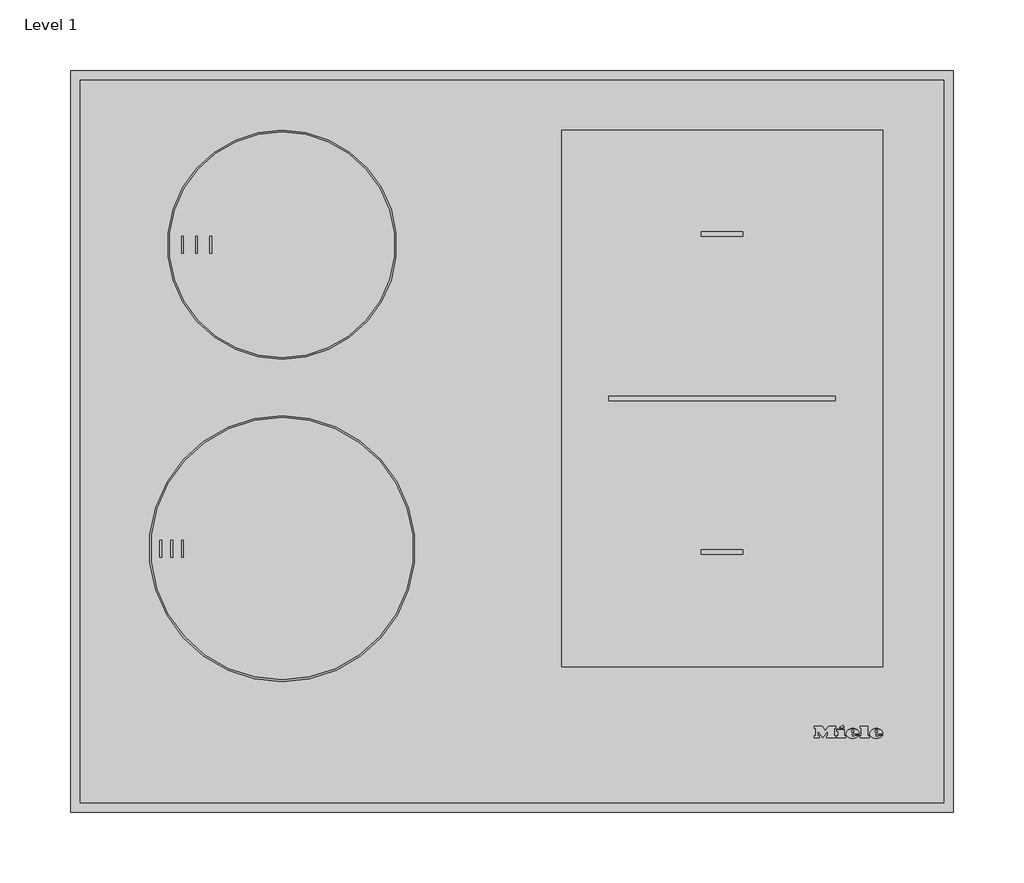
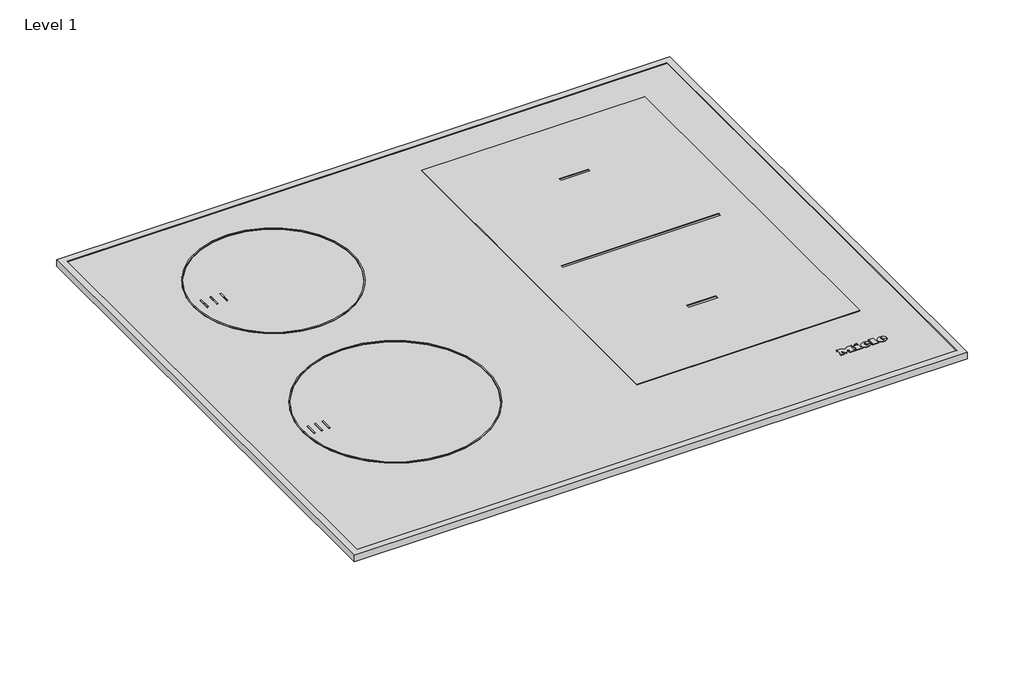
# One storey: 1 proxy.
"""IFC4 building model written with IfcOpenShell, lengths in millimetres."""

import ifcopenshell
import ifcopenshell.guid

model = None  # the IFC model being written
_history = None  # IfcOwnerHistory: only IFC2X3 demands one
_inside = {}  # id of a spatial element -> (the spatial element, [elements in it])
_under = {}  # id of a project, library or spatial element -> (it, [spatial elements below it])
_declared = {}  # id of a project -> (the project, [libraries it declares])
_typed = {}  # id of a type object -> (the type object, [elements of that type])
_made_of = {}  # id of a material, layer set ... -> (it, [elements and type objects made of it])


def new_model(schema):
    """Start an empty IFC model of exactly this schema.

    Asked for "IFC4X3", IfcOpenShell would pick the latest addendum, in which some entities
    have other attributes; the version numbers below select the first issue.
    IFC2X3 requires an IfcOwnerHistory on every rooted entity: one is made here for all.
    """
    global model, _history
    if schema == "IFC4X3":
        model = ifcopenshell.file(schema_version=(4, 3, 0, 0))
    else:
        model = ifcopenshell.file(schema=schema)
    _inside.clear()
    _under.clear()
    _declared.clear()
    _typed.clear()
    _made_of.clear()
    _history = None
    if model.schema == "IFC2X3":
        org = make("IfcOrganization", Name="unknown")
        user = make(
            "IfcPersonAndOrganization",
            ThePerson=make("IfcPerson", FamilyName="unknown"),
            TheOrganization=org,
        )
        app = make(
            "IfcApplication",
            ApplicationDeveloper=org,
            Version="unknown",
            ApplicationFullName="unknown",
            ApplicationIdentifier="unknown",
        )
        _history = make(
            "IfcOwnerHistory",
            OwningUser=user,
            OwningApplication=app,
            ChangeAction="ADDED",
            CreationDate=0,
        )
    return model


def make(cls, **values):
    """One entity of the class cls with the attributes given. An attribute that is None is left unset."""
    return model.create_entity(
        cls, **{name: value for name, value in values.items() if value is not None}
    )


def rooted(cls, **values):
    """An entity with a GlobalId (a new one), such as an element, a storey or a relation."""
    return make(cls, GlobalId=ifcopenshell.guid.new(), OwnerHistory=_history, **values)


def si_unit(unit_type, name, prefix=None):
    """IfcSIUnit, for example si_unit("LENGTHUNIT", "METRE", prefix="MILLI")."""
    return make("IfcSIUnit", UnitType=unit_type, Prefix=prefix, Name=name)


def assignment(units):
    """IfcUnitAssignment: the units of a project."""
    return None if units is None else make("IfcUnitAssignment", Units=units)


def point(xyz):
    """IfcCartesianPoint."""
    return None if xyz is None else make("IfcCartesianPoint", Coordinates=xyz)


def direction(xyz):
    """IfcDirection."""
    return None if xyz is None else make("IfcDirection", DirectionRatios=xyz)


def frame(location, z_axis=None, x_axis=None):
    """IfcAxis2Placement3D, a coordinate frame: its origin and axes. An axis left out is left unset."""
    return make(
        "IfcAxis2Placement3D",
        Location=point(location),
        Axis=direction(z_axis),
        RefDirection=direction(x_axis),
    )


def frame_2d(location, x_axis=None):
    """IfcAxis2Placement2D, a coordinate frame in the plane: its origin and x axis."""
    return make(
        "IfcAxis2Placement2D", Location=point(location), RefDirection=direction(x_axis)
    )


def origin():
    """The frame at (0, 0, 0) with its axes left unset."""
    return frame((0.0, 0.0, 0.0))


def place(relative_to, where):
    """IfcLocalPlacement: puts the frame where relative to a parent placement (None: the world)."""
    return make(
        "IfcLocalPlacement", PlacementRelTo=relative_to, RelativePlacement=where
    )


def context(
    kind, dimensions, precision=None, world=None, true_north=None, identifier=None
):
    """IfcGeometricRepresentationContext, for example the 3D "Model" context."""
    return make(
        "IfcGeometricRepresentationContext",
        ContextIdentifier=identifier,
        ContextType=kind,
        CoordinateSpaceDimension=dimensions,
        Precision=precision,
        WorldCoordinateSystem=world,
        TrueNorth=true_north,
    )


def project(units=None, contexts=None):
    """IfcProject with its units and contexts."""
    return rooted(
        "IfcProject",
        Name="project",
        RepresentationContexts=contexts,
        UnitsInContext=assignment(units),
    )


def spatial(cls, under=None, at=None, **own):
    """A site, building, storey or space (cls), placed at a placement, below another one or the project."""
    s = rooted(cls, ObjectPlacement=at, **own)
    if under is not None:
        _under.setdefault(under.id(), (under, []))[1].append(s)
    return s


def polyline(points):
    """IfcPolyline through the points."""
    return make("IfcPolyline", Points=[point(p) for p in points])


def circle_curve(where, radius):
    """IfcCircle in the frame where."""
    return make("IfcCircle", Position=where, Radius=radius)


def ellipse_curve(where, semi_axis1, semi_axis2):
    """IfcEllipse in the frame where."""
    return make(
        "IfcEllipse", Position=where, SemiAxis1=semi_axis1, SemiAxis2=semi_axis2
    )


def trimmed(basis, trim1, trim2, sense, master):
    """IfcTrimmedCurve: the piece of a basis curve between two trims."""
    return make(
        "IfcTrimmedCurve",
        BasisCurve=basis,
        Trim1=trim1,
        Trim2=trim2,
        SenseAgreement=sense,
        MasterRepresentation=master,
    )


def segment(curve, same_sense, transition):
    """IfcCompositeCurveSegment."""
    return make(
        "IfcCompositeCurveSegment",
        Transition=transition,
        SameSense=same_sense,
        ParentCurve=curve,
    )


def composite_curve(segments, self_intersect=None):
    """IfcCompositeCurve: segments joined end to end."""
    return make("IfcCompositeCurve", Segments=segments, SelfIntersect=self_intersect)


def outline(outer, holes=None, kind="AREA"):
    """IfcArbitraryClosedProfileDef: a profile drawn as a closed curve; with holes, ...WithVoids."""
    if holes is None:
        return make("IfcArbitraryClosedProfileDef", ProfileType=kind, OuterCurve=outer)
    return make(
        "IfcArbitraryProfileDefWithVoids",
        ProfileType=kind,
        OuterCurve=outer,
        InnerCurves=holes,
    )


def extrude(swept, where, along, depth):
    """IfcExtrudedAreaSolid: the profile swept, set in the frame where, extruded along a direction by depth."""
    return make(
        "IfcExtrudedAreaSolid",
        SweptArea=swept,
        Position=where,
        ExtrudedDirection=direction(along),
        Depth=depth,
    )


def faces_of(points, faces, orient=None, outer=None):
    """IfcFace entities. A face is a list of loops; a loop is a list of indices into points, from 0.

    orient and outer hold one flag for each loop. By default every Orientation is true, the
    first loop of a face is its IfcFaceOuterBound and the others are IfcFaceBound.
    """
    made = []
    for i, loops in enumerate(faces):
        bounds = []
        for j, loop in enumerate(loops):
            is_outer = j == 0 if outer is None else outer[i][j]
            bounds.append(
                make(
                    "IfcFaceOuterBound" if is_outer else "IfcFaceBound",
                    Bound=make("IfcPolyLoop", Polygon=[points[k] for k in loop]),
                    Orientation=True if orient is None else orient[i][j],
                )
            )
        made.append(make("IfcFace", Bounds=bounds))
    return made


def faceted_brep(points, faces, orient=None, outer=None, voids=None):
    """IfcFacetedBrep: a solid bounded by flat faces; with voids (closed shells), ...WithVoids."""
    shared = [point(p) for p in points]
    hull = make("IfcClosedShell", CfsFaces=faces_of(shared, faces, orient, outer))
    if voids is None:
        return make("IfcFacetedBrep", Outer=hull)
    return make(
        "IfcFacetedBrepWithVoids",
        Outer=hull,
        Voids=[
            make(cls, CfsFaces=faces_of(shared, fs, o, b)) for cls, fs, o, b in voids
        ],
    )


def shape(context_of_items, identifier, shape_type, items):
    """IfcShapeRepresentation: the items that make up one representation, for example the "Body"."""
    return make(
        "IfcShapeRepresentation",
        ContextOfItems=context_of_items,
        RepresentationIdentifier=identifier,
        RepresentationType=shape_type,
        Items=items,
    )


def source(mapping_origin, context_of_items, identifier, shape_type, items):
    """IfcRepresentationMap: a shape defined once, which mapped items show again and again."""
    return make(
        "IfcRepresentationMap",
        MappingOrigin=mapping_origin,
        MappedRepresentation=shape(context_of_items, identifier, shape_type, items),
    )


def transform(
    local_origin,
    x_axis=None,
    y_axis=None,
    z_axis=None,
    scale=None,
    scale2=None,
    scale3=None,
    uniform=True,
):
    """IfcCartesianTransformationOperator3D, or its non-uniform kind. x_axis, y_axis, z_axis: its Axis1, 2, 3."""
    if uniform:
        return make(
            "IfcCartesianTransformationOperator3D",
            Axis1=direction(x_axis),
            Axis2=direction(y_axis),
            LocalOrigin=point(local_origin),
            Scale=scale,
            Axis3=direction(z_axis),
        )
    return make(
        "IfcCartesianTransformationOperator3DnonUniform",
        Axis1=direction(x_axis),
        Axis2=direction(y_axis),
        LocalOrigin=point(local_origin),
        Scale=scale,
        Axis3=direction(z_axis),
        Scale2=scale2,
        Scale3=scale3,
    )


def mapped(mapping_source, mapping_target):
    """IfcMappedItem: shows the shape of a source again, moved by a transform."""
    return make(
        "IfcMappedItem", MappingSource=mapping_source, MappingTarget=mapping_target
    )


def made_of(thing, what):
    """Note that an element or type object is made of a material, layer set ...; save() writes the relation."""
    if what is not None:
        _made_of.setdefault(what.id(), (what, []))[1].append(thing)
    return thing


def element(
    cls,
    number,
    at=None,
    inside=None,
    cuts=None,
    type_object=None,
    material=None,
    context=None,
    identifier="Body",
    shape_type=None,
    held_by="IfcProductDefinitionShape",
    body=None,
    shapes=None,
    **own,
):
    """One element of the class cls, such as IfcWall. Its Tag is "e" and its number.

    at: its placement. inside: the storey or other place that contains it. cuts: it is an
    opening in that element (IfcRelVoidsElement). A single representation is given by context,
    identifier, shape_type and body (its items); several are given by shapes. held_by: the class
    of the entity that holds the representations. save() writes the other relations.
    """
    e = rooted(cls, Tag="e%d" % number, ObjectPlacement=at, **own)
    if body is not None:
        shapes = [shape(context, identifier, shape_type, body)]
    if shapes is not None:
        e.Representation = make(held_by, Representations=shapes)
    if inside is not None:
        _inside.setdefault(inside.id(), (inside, []))[1].append(e)
    if cuts is not None:
        rooted(
            "IfcRelVoidsElement", RelatingBuildingElement=cuts, RelatedOpeningElement=e
        )
    if type_object is not None:
        _typed.setdefault(type_object.id(), (type_object, []))[1].append(e)
    return made_of(e, material)


def aggregate(whole, parts):
    """IfcRelAggregates: a whole, such as a stair, and the parts it consists of."""
    return rooted("IfcRelAggregates", RelatingObject=whole, RelatedObjects=parts)


def save(model, path):
    """Write the relations noted so far, then the file.

    IfcRelAggregates (storeys below a building ...), IfcRelContainedInSpatialStructure (elements
    in a storey), IfcRelDefinesByType, IfcRelAssociatesMaterial and IfcRelDeclares: one each for
    every whole, place, type object, material and project.
    """
    for whole, parts in _under.values():
        aggregate(whole, parts)
    for where, things in _inside.values():
        rooted(
            "IfcRelContainedInSpatialStructure",
            RelatedElements=things,
            RelatingStructure=where,
        )
    for kind, things in _typed.values():
        rooted("IfcRelDefinesByType", RelatedObjects=things, RelatingType=kind)
    for what, things in _made_of.values():
        rooted("IfcRelAssociatesMaterial", RelatedObjects=things, RelatingMaterial=what)
    for by, libraries in _declared.values():
        rooted("IfcRelDeclares", RelatingContext=by, RelatedDefinitions=libraries)
    model.write(path)


def plane_surface(at):
    """IfcPlane: the flat surface through the origin of the frame at, square to its z axis."""
    return make("IfcPlane", Position=at)


def cylinder_surface(at, radius):
    """IfcCylindricalSurface: all points at the distance radius from the z axis of the frame at."""
    return make("IfcCylindricalSurface", Position=at, Radius=radius)


def revolved_surface(curve, axis_point, axis_direction):
    """IfcSurfaceOfRevolution: the curve turned about the line through axis_point along axis_direction."""
    return make(
        "IfcSurfaceOfRevolution",
        SweptCurve=make("IfcArbitraryOpenProfileDef", ProfileType="CURVE", Curve=curve),
        AxisPosition=make("IfcAxis1Placement", Location=point(axis_point), Axis=direction(axis_direction)),
    )


def extruded_surface(curve, direction_of_extrusion, depth):
    """IfcSurfaceOfLinearExtrusion: the curve pushed along a direction by depth."""
    return make(
        "IfcSurfaceOfLinearExtrusion",
        SweptCurve=make("IfcArbitraryOpenProfileDef", ProfileType="CURVE", Curve=curve),
        ExtrudedDirection=direction(direction_of_extrusion),
        Depth=depth,
    )


def advanced_brep(points, edges, surfaces, faces):
    """IfcAdvancedBrep: a solid bounded by faces that lie on surfaces and meet in shared edges.

    An edge is (start, end): straight between two places in points (the first is 0);
    or (start, end, curve); or (start, end, curve, False) where it runs against its curve.
    A face is (place in surfaces, loops), or (place, loops, False) where it looks against
    its surface's normal. A loop lists edges by number (the first is 1), with a minus sign
    where the edge is run from its end to its start. The first loop is the outer one.
    """
    corners = [point(p) for p in points]
    vertices = [make("IfcVertexPoint", VertexGeometry=c) for c in corners]
    made = []
    for start, end, *more in edges:
        made.append(
            make(
                "IfcEdgeCurve",
                EdgeStart=vertices[start],
                EdgeEnd=vertices[end],
                EdgeGeometry=more[0] if more else make("IfcPolyline", Points=[corners[start], corners[end]]),
                SameSense=more[1] if len(more) > 1 else True,
            )
        )
    hull = []
    for where, loops, *sense in faces:
        bounds = []
        for j, loop in enumerate(loops):
            ring = [make("IfcOrientedEdge", EdgeElement=made[abs(k) - 1], Orientation=k > 0) for k in loop]
            bounds.append(
                make(
                    "IfcFaceOuterBound" if j == 0 else "IfcFaceBound",
                    Bound=make("IfcEdgeLoop", EdgeList=ring),
                    Orientation=True,
                )
            )
        hull.append(make("IfcAdvancedFace", Bounds=bounds, FaceSurface=surfaces[where], SameSense=sense[0] if sense else True))
    return make("IfcAdvancedBrep", Outer=make("IfcClosedShell", CfsFaces=hull))


def specialty_equipment_9e8c9460(model_context):
    return source(origin(), model_context, "Body", "SolidModel", [
        advanced_brep(
        [(257.66, 54.8948833, 6.4802537), (257.66, 55.7028828, 6.4811551), (263.012, 55.7028828, 6.4811551), (253.7, 55.7028828, 6.4811551), (255.9, 52.9988845, 6.4781386), (262.876, 54.8948833, 6.4802537), (260.46, 54.8948833, 6.4802537), (258.556, 53.9988838, 6.4792542), (257.66, 56.7268821, 6.4822974), (257.66, 57.5988816, 6.4832701), (259.028, 57.5988816, 6.4832701), (259.028, 56.7268821, 6.4822974), (257.66, 54.8959988, 5.4802543), (258.556, 53.9999994, 5.4792548), (260.46, 54.8959988, 5.4802543), (262.876, 54.8959988, 5.4802543), (255.9, 53.0, 5.4781393), (253.7, 55.7039983, 5.4811557), (263.012, 55.7039983, 5.4811557), (257.66, 55.7039983, 5.4811557), (257.66, 56.7279977, 5.482298), (259.028, 56.7279977, 5.482298), (259.028, 57.5999971, 5.4832707), (257.66, 57.5999971, 5.4832707)],
        [
            (0, 1),
            (1, 2),
            (2, 3, ellipse_curve(frame((258.356, 55.7028828, 6.4811551), z_axis=(0.0, -0.0011155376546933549, 0.9999993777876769), x_axis=(-1.0, 0.0, 0.0)), 4.656, 3.848)),
            (3, 4, circle_curve(frame((256.7960436, 55.9748826, 6.4814585), z_axis=(0.0, -0.0011155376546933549, 0.9999993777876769), x_axis=(0.0, -0.9999993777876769, -0.0011155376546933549)), 3.1079688)),
            (4, 5, circle_curve(frame((258.2627936, 58.0868813, 6.4838145), z_axis=(0.0, -0.0011155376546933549, 0.9999993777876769), x_axis=(0.0, -0.9999993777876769, -0.0011155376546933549)), 5.6098607)),
            (5, 6),
            (6, 7, circle_curve(frame((258.9470588, 55.6388828, 6.4810837), z_axis=(0.0, 0.0011155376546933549, -0.9999993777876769), x_axis=(0.0, -0.9999993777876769, -0.0011155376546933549)), 1.6859795)),
            (7, 0, circle_curve(frame((258.556, 54.8948833, 6.4802537), z_axis=(0.0, 0.0011155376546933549, -0.9999993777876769), x_axis=(0.0, -0.9999993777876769, -0.0011155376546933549)), 0.896)),
            (8, 9),
            (9, 10, circle_curve(frame((258.344, 57.5988816, 6.4832701), z_axis=(0.0, 0.0011155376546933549, -0.9999993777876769), x_axis=(0.0, -0.9999993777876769, -0.0011155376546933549)), 0.684)),
            (10, 11),
            (11, 8),
            (12, 13, circle_curve(frame((258.556, 54.8959988, 5.4802543), z_axis=(0.0, -0.0011155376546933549, 0.9999993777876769), x_axis=(0.0, -0.9999993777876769, -0.0011155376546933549)), 0.896)),
            (13, 14, circle_curve(frame((258.9470588, 55.6399984, 5.4810843), z_axis=(0.0, -0.0011155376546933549, 0.9999993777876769), x_axis=(0.0, -0.9999993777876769, -0.0011155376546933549)), 1.6859795)),
            (14, 15),
            (15, 16, circle_curve(frame((258.2627936, 58.0879968, 5.4838151), z_axis=(0.0, 0.0011155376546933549, -0.9999993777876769), x_axis=(0.0, -0.9999993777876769, -0.0011155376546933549)), 5.6098607)),
            (16, 17, circle_curve(frame((256.7960436, 55.9759981, 5.4814591), z_axis=(0.0, 0.0011155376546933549, -0.9999993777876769), x_axis=(0.0, -0.9999993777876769, -0.0011155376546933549)), 3.1079688)),
            (17, 18, ellipse_curve(frame((258.356, 55.7039983, 5.4811557), z_axis=(0.0, 0.0011155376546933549, -0.9999993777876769), x_axis=(-1.0, 0.0, 0.0)), 4.656, 3.848)),
            (18, 19),
            (19, 12),
            (20, 21),
            (21, 22),
            (22, 23, circle_curve(frame((258.344, 57.5999971, 5.4832707), z_axis=(0.0, -0.0011155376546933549, 0.9999993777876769), x_axis=(0.0, -0.9999993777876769, -0.0011155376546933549)), 0.684)),
            (23, 20),
            (0, 12),
            (19, 1),
            (18, 2),
            (5, 15),
            (14, 6),
            (17, 3),
            (13, 7),
            (16, 4),
            (8, 20),
            (23, 9),
            (22, 10),
            (21, 11),
        ],
        [
            plane_surface(frame((257.66, 55.7028828, 6.4811551), z_axis=(0.0, -0.0011155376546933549, 0.9999993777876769), x_axis=(0.0, 0.9999993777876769, 0.0011155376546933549))),
            plane_surface(frame((257.66, 55.7039983, 5.4811557), z_axis=(0.0, 0.0011155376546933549, -0.9999993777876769), x_axis=(0.0, -0.9999993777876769, -0.0011155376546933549))),
            plane_surface(frame((257.66, 54.8948833, 6.4802537), z_axis=(1.0000000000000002, 0.0, 0.0), x_axis=(0.0, 0.001115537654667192, -0.999999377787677))),
            plane_surface(frame((257.66, 55.7028828, 6.4811551), z_axis=(0.0, -0.999999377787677, -0.001115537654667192), x_axis=(0.0, 0.001115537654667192, -0.999999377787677))),
            plane_surface(frame((262.876, 54.8948833, 6.4802537), z_axis=(0.0, 0.999999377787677, 0.001115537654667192), x_axis=(0.0, 0.001115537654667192, -0.999999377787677))),
            extruded_surface(trimmed(ellipse_curve(frame((258.356, 55.7051139, 4.4811563), z_axis=(0.0, -0.0011155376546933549, 0.9999993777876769), x_axis=(-1.0, 0.0, 0.0)), 4.656, 3.848), [point((263.012, 55.7051139, 4.4811563))], [point((253.7, 55.7051139, 4.4811563))], True, "CARTESIAN"), (0.0, -0.001115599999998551, 0.9999994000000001), 1.00000002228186),
            revolved_surface(polyline([(258.9470588, 53.954019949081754, 5.479203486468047), (258.9470588, 53.95290441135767, 6.4792029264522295)]), (258.9470588, 55.6399984, 5.4810843), (0.0, 0.0011155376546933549, -0.9999993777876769)),
            revolved_surface(polyline([(258.556, 53.99999935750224, 5.479254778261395), (258.556, 53.99888381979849, 6.479254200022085)]), (258.556, 54.8959988, 5.4802543), (0.0, 0.0011155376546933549, -0.9999993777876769)),
            cylinder_surface(frame((256.7960436, 55.9759981, 5.4814591), z_axis=(0.0, -0.0011155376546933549, 0.9999993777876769), x_axis=(0.0, -0.9999993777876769, -0.0011155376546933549)), 3.1079688),
            cylinder_surface(frame((258.2627936, 58.0879968, 5.4838151), z_axis=(0.0, -0.0011155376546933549, 0.9999993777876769), x_axis=(0.0, -0.9999993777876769, -0.0011155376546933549)), 5.6098607),
            plane_surface(frame((257.66, 56.7268821, 6.4822974), z_axis=(1.0000000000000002, 0.0, 0.0), x_axis=(0.0, 0.001115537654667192, -0.999999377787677))),
            revolved_surface(polyline([(258.344, 56.915997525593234, 5.48250767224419), (258.344, 56.91488198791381, 6.482507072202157)]), (258.344, 57.5999971, 5.4832707), (0.0, 0.0011155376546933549, -0.9999993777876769)),
            plane_surface(frame((259.028, 57.5988816, 6.4832701), z_axis=(-1.0000000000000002, 0.0, 0.0), x_axis=(0.0, 0.001115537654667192, -0.999999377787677))),
            plane_surface(frame((259.028, 56.7268821, 6.4822974), z_axis=(0.0, 0.999999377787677, 0.001115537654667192), x_axis=(0.0, 0.001115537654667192, -0.999999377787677))),
        ],
        [
            (0, [[1, 2, 3, 4, 5, 6, 7, 8], [9, 10, 11, 12]]),
            (1, [[13, 14, 15, 16, 17, 18, 19, 20], [21, 22, 23, 24]]),
            (2, [[-1, 25, -20, 26]]),
            (3, [[-2, -26, -19, 27]]),
            (4, [[-6, 28, -15, 29]]),
            (5, [[-3, -27, -18, 30]]),
            (6, [[-7, -29, -14, 31]]),
            (7, [[-8, -31, -13, -25]]),
            (8, [[-4, -30, -17, 32]]),
            (9, [[-5, -32, -16, -28]]),
            (10, [[-9, 33, -24, 34]]),
            (11, [[-10, -34, -23, 35]]),
            (12, [[-11, -35, -22, 36]]),
            (13, [[-12, -36, -21, -33]]),
        ],
    ),
        advanced_brep(
        [(240.964, 54.8948833, 6.4802537), (240.964, 55.7028828, 6.4811551), (246.316, 55.7028828, 6.4811551), (237.004, 55.7028828, 6.4811551), (239.204, 52.9988845, 6.4781386), (246.18, 54.8948833, 6.4802537), (243.764, 54.8948833, 6.4802537), (241.86, 53.9988838, 6.4792542), (240.964, 56.7268821, 6.4822974), (240.964, 57.5988816, 6.4832701), (242.332, 57.5988816, 6.4832701), (242.332, 56.7268821, 6.4822974), (240.964, 54.8959988, 5.4802543), (241.86, 53.9999994, 5.4792548), (243.764, 54.8959988, 5.4802543), (246.18, 54.8959988, 5.4802543), (239.204, 53.0, 5.4781393), (237.004, 55.7039983, 5.4811557), (246.316, 55.7039983, 5.4811557), (240.964, 55.7039983, 5.4811557), (240.964, 56.7279977, 5.482298), (242.332, 56.7279977, 5.482298), (242.332, 57.5999971, 5.4832707), (240.964, 57.5999971, 5.4832707)],
        [
            (0, 1),
            (1, 2),
            (2, 3, ellipse_curve(frame((241.66, 55.7028828, 6.4811551), z_axis=(0.0, -0.0011155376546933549, 0.9999993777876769), x_axis=(-1.0, 0.0, 0.0)), 4.656, 3.848)),
            (3, 4, circle_curve(frame((240.1000436, 55.9748826, 6.4814585), z_axis=(0.0, -0.0011155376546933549, 0.9999993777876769), x_axis=(0.0, -0.9999993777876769, -0.0011155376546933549)), 3.1079688)),
            (4, 5, circle_curve(frame((241.5667936, 58.0868813, 6.4838145), z_axis=(0.0, -0.0011155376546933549, 0.9999993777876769), x_axis=(0.0, -0.9999993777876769, -0.0011155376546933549)), 5.6098607)),
            (5, 6),
            (6, 7, circle_curve(frame((242.2510588, 55.6388828, 6.4810837), z_axis=(0.0, 0.0011155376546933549, -0.9999993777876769), x_axis=(0.0, -0.9999993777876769, -0.0011155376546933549)), 1.6859795)),
            (7, 0, circle_curve(frame((241.86, 54.8948833, 6.4802537), z_axis=(0.0, 0.0011155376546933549, -0.9999993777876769), x_axis=(0.0, -0.9999993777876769, -0.0011155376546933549)), 0.896)),
            (8, 9),
            (9, 10, circle_curve(frame((241.648, 57.5988816, 6.4832701), z_axis=(0.0, 0.0011155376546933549, -0.9999993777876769), x_axis=(0.0, -0.9999993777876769, -0.0011155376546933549)), 0.684)),
            (10, 11),
            (11, 8),
            (12, 13, circle_curve(frame((241.86, 54.8959988, 5.4802543), z_axis=(0.0, -0.0011155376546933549, 0.9999993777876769), x_axis=(0.0, -0.9999993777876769, -0.0011155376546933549)), 0.896)),
            (13, 14, circle_curve(frame((242.2510588, 55.6399984, 5.4810843), z_axis=(0.0, -0.0011155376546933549, 0.9999993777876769), x_axis=(0.0, -0.9999993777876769, -0.0011155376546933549)), 1.6859795)),
            (14, 15),
            (15, 16, circle_curve(frame((241.5667936, 58.0879968, 5.4838151), z_axis=(0.0, 0.0011155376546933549, -0.9999993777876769), x_axis=(0.0, -0.9999993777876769, -0.0011155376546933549)), 5.6098607)),
            (16, 17, circle_curve(frame((240.1000436, 55.9759981, 5.4814591), z_axis=(0.0, 0.0011155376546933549, -0.9999993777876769), x_axis=(0.0, -0.9999993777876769, -0.0011155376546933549)), 3.1079688)),
            (17, 18, ellipse_curve(frame((241.66, 55.7039983, 5.4811557), z_axis=(0.0, 0.0011155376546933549, -0.9999993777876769), x_axis=(-1.0, 0.0, 0.0)), 4.656, 3.848)),
            (18, 19),
            (19, 12),
            (20, 21),
            (21, 22),
            (22, 23, circle_curve(frame((241.648, 57.5999971, 5.4832707), z_axis=(0.0, -0.0011155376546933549, 0.9999993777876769), x_axis=(0.0, -0.9999993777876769, -0.0011155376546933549)), 0.684)),
            (23, 20),
            (0, 12),
            (19, 1),
            (18, 2),
            (5, 15),
            (14, 6),
            (17, 3),
            (13, 7),
            (16, 4),
            (8, 20),
            (23, 9),
            (22, 10),
            (21, 11),
        ],
        [
            plane_surface(frame((240.964, 55.7028828, 6.4811551), z_axis=(0.0, -0.0011155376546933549, 0.9999993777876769), x_axis=(0.0, 0.9999993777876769, 0.0011155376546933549))),
            plane_surface(frame((240.964, 55.7039983, 5.4811557), z_axis=(0.0, 0.0011155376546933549, -0.9999993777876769), x_axis=(0.0, -0.9999993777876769, -0.0011155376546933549))),
            plane_surface(frame((240.964, 54.8948833, 6.4802537), z_axis=(1.0000000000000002, 0.0, 0.0), x_axis=(0.0, 0.001115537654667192, -0.999999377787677))),
            plane_surface(frame((240.964, 55.7028828, 6.4811551), z_axis=(0.0, -0.999999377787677, -0.001115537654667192), x_axis=(0.0, 0.001115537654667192, -0.999999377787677))),
            plane_surface(frame((246.18, 54.8948833, 6.4802537), z_axis=(0.0, 0.999999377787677, 0.001115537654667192), x_axis=(0.0, 0.001115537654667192, -0.999999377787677))),
            extruded_surface(trimmed(ellipse_curve(frame((241.66, 55.7051139, 4.4811563), z_axis=(0.0, -0.0011155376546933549, 0.9999993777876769), x_axis=(-1.0, 0.0, 0.0)), 4.656, 3.848), [point((246.316, 55.7051139, 4.4811563))], [point((237.004, 55.7051139, 4.4811563))], True, "CARTESIAN"), (0.0, -0.001115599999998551, 0.9999994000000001), 1.00000002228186),
            revolved_surface(polyline([(242.2510588, 53.954019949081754, 5.479203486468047), (242.2510588, 53.95290441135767, 6.4792029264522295)]), (242.2510588, 55.6399984, 5.4810843), (0.0, 0.0011155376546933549, -0.9999993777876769)),
            revolved_surface(polyline([(241.86, 53.99999935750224, 5.479254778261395), (241.86, 53.99888381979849, 6.479254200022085)]), (241.86, 54.8959988, 5.4802543), (0.0, 0.0011155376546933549, -0.9999993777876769)),
            cylinder_surface(frame((240.1000436, 55.9759981, 5.4814591), z_axis=(0.0, -0.0011155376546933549, 0.9999993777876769), x_axis=(0.0, -0.9999993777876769, -0.0011155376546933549)), 3.1079688),
            cylinder_surface(frame((241.5667936, 58.0879968, 5.4838151), z_axis=(0.0, -0.0011155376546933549, 0.9999993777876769), x_axis=(0.0, -0.9999993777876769, -0.0011155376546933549)), 5.6098607),
            plane_surface(frame((240.964, 56.7268821, 6.4822974), z_axis=(1.0000000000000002, 0.0, 0.0), x_axis=(0.0, 0.001115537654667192, -0.999999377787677))),
            revolved_surface(polyline([(241.648, 56.915997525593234, 5.48250767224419), (241.648, 56.91488198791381, 6.482507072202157)]), (241.648, 57.5999971, 5.4832707), (0.0, 0.0011155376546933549, -0.9999993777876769)),
            plane_surface(frame((242.332, 57.5988816, 6.4832701), z_axis=(-1.0000000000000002, 0.0, 0.0), x_axis=(0.0, 0.001115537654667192, -0.999999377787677))),
            plane_surface(frame((242.332, 56.7268821, 6.4822974), z_axis=(0.0, 0.999999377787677, 0.001115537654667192), x_axis=(0.0, 0.001115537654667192, -0.999999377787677))),
        ],
        [
            (0, [[1, 2, 3, 4, 5, 6, 7, 8], [9, 10, 11, 12]]),
            (1, [[13, 14, 15, 16, 17, 18, 19, 20], [21, 22, 23, 24]]),
            (2, [[-1, 25, -20, 26]]),
            (3, [[-2, -26, -19, 27]]),
            (4, [[-6, 28, -15, 29]]),
            (5, [[-3, -27, -18, 30]]),
            (6, [[-7, -29, -14, 31]]),
            (7, [[-8, -31, -13, -25]]),
            (8, [[-4, -30, -17, 32]]),
            (9, [[-5, -32, -16, -28]]),
            (10, [[-9, 33, -24, 34]]),
            (11, [[-10, -34, -23, 35]]),
            (12, [[-11, -35, -22, 36]]),
            (13, [[-12, -36, -21, -33]]),
        ],
    ),
        extrude(outline(polyline([(0.0, 0.0), (-0.0109086, -2.9993294), (-1.4390415, -2.9920868), (-1.4315307, 0.0), (0.0, 0.0)])), frame((232.22, 60.5279953, 5.486537), z_axis=(0.0, -0.001115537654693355, 0.999999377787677), x_axis=(-0.4247202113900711, 0.9053240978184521, 0.0010099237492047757)), (0.0, 0.0, 1.0), 1.0),
        extrude(outline(polyline([(-0.4933908, 2.4141097), (-2.7800844, -2.4601583), (-7.0459741, -0.4588767), (-7.4401145, -1.299018), (-8.6568709, -0.728194), (-5.9760369, 4.9862153), (-4.7592805, 4.4153913), (-5.1636142, 3.5535222), (-2.1941493, 2.1604399), (-1.7898157, 3.022309), (-0.4933908, 2.4141097)])), frame((232.22, 60.5279953, 5.486537), z_axis=(0.0, -0.001115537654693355, 0.999999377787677), x_axis=(-0.4247202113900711, 0.9053240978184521, 0.0010099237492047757)), (0.0, 0.0, 1.0), 1.0),
        extrude(outline(polyline([(0.0, 0.0), (0.0, -1.304), (-5.504, -1.304), (-5.504, 5.3519999), (-6.488, 5.3519999), (-6.488, 6.696), (0.0, 6.696), (0.0, 5.3519999), (-0.96, 5.3519999), (-0.96, 0.0), (0.0, 0.0)])), frame((246.764, 59.6959958, 5.4856089), z_axis=(0.0, -0.0011155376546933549, 0.9999993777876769), x_axis=(-1.0, 0.0, 0.0)), (0.0, 0.0, 1.0), 1.0),
        extrude(outline(polyline([(0.0, 0.0), (0.0, -1.304), (-5.576, -1.304), (-7.92, 1.696), (-10.256, -1.304), (-15.128, -1.304), (-15.128, 0.0), (-14.112, 0.0), (-14.112, 5.3519999), (-15.128, 5.3519999), (-15.128, 6.696), (-8.744, 6.696), (-8.744, 5.3519999), (-9.728, 5.3519999), (-9.728, 1.8807777), (-6.136, 6.696), (-2.56, 1.9488752), (-2.56, 5.3519999), (-3.52, 5.3519999), (-3.52, 6.696), (0.0, 6.696), (0.0, 5.3519999), (-0.968, 5.3519999), (-0.968, 0.0), (0.0, 0.0)])), frame((214.3, 59.6959958, 5.4856089), z_axis=(0.0, -0.0011155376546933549, 0.9999993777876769), x_axis=(-1.0, 0.0, 0.0)), (0.0, 0.0, 1.0), 1.0),
        extrude(outline(polyline([(310.0, 520.0), (310.0, 1.0), (-310.0, 1.0), (-310.0, 520.0), (310.0, 520.0)])), frame((0.0, 0.0, 2.0), z_axis=(0.0, 0.0, 1.0), x_axis=(1.0, 0.0, 0.0)), (0.0, 0.0, 1.0), 4.0),
        extrude(outline(polyline([(278.5, 506.5), (278.5, 19.5), (-278.5, 19.5), (-278.5, 506.5), (278.5, 506.5)])), frame((0.0, 0.0, -15.2), z_axis=(0.0, 0.0, 1.0), x_axis=(1.0, 0.0, 0.0)), (0.0, 0.0, 1.0), 17.2),
        extrude(outline(polyline([(-202.8, 328.7), (-224.2, 328.7), (-224.2, 412.1), (-202.8, 412.1), (-202.8, 462.3), (203.2, 462.3), (203.2, 91.3), (-202.8, 91.3), (-202.8, 328.7)])), frame((0.0, 0.0, -44.9), z_axis=(0.0, 0.0, 1.0), x_axis=(1.0, 0.0, 0.0)), (0.0, 0.0, 1.0), 29.7),
        faceted_brep([(306.0, 519.0, 7.0), (306.0, 519.0, 6.0), (306.0, 7.0, 6.0), (306.0, 7.0, 7.0), (313.0, 526.0, 0.0), (313.0, 526.0, 7.0), (313.0, 0.0, 7.0), (313.0, 0.0, 0.0), (312.0, 525.0, 6.0), (312.0, 525.0, 0.0), (312.0, 1.0, 0.0), (312.0, 1.0, 6.0), (-306.0, 7.0, 6.0), (-306.0, 7.0, 7.0), (-313.0, 0.0, 7.0), (-313.0, 0.0, 0.0), (-312.0, 1.0, 0.0), (-312.0, 1.0, 6.0), (-306.0, 519.0, 6.0), (-306.0, 519.0, 7.0), (-313.0, 526.0, 7.0), (-313.0, 526.0, 0.0), (-312.0, 525.0, 0.0), (-312.0, 525.0, 6.0)], [[[0, 1, 2, 3]], [[4, 5, 6, 7]], [[8, 9, 10, 11]], [[3, 2, 12, 13]], [[7, 6, 14, 15]], [[11, 10, 16, 17]], [[13, 12, 18, 19]], [[15, 14, 20, 21]], [[17, 16, 22, 23]], [[19, 18, 1, 0]], [[5, 20, 14, 6], [3, 13, 19, 0]], [[21, 20, 5, 4]], [[7, 15, 21, 4], [9, 22, 16, 10]], [[23, 22, 9, 8]], [[11, 17, 23, 8], [1, 18, 12, 2]]]),
        extrude(outline(polyline([(141.2772603, 425.5), (133.9, 425.5), (133.9, 426.7557039), (140.0215564, 426.7557039), (140.0215564, 430.0519266), (134.370889, 430.0519266), (134.370889, 431.3076304), (140.0215564, 431.3076304), (140.0215564, 434.2899271), (134.056963, 434.2899271), (134.056963, 435.545631), (141.2772603, 435.545631), (141.2772603, 425.5)])), frame((0.0, 0.0, -75.9), z_axis=(0.0, 0.0, 1.0), x_axis=(1.0, 0.0, 0.0)), (0.0, 0.0, 1.0), 1.0),
        extrude(outline(polyline([(132.0164442, 425.5), (125.7379248, 425.5), (125.7379248, 426.7557039), (130.7607403, 426.7557039), (130.7607403, 435.545631), (132.0164442, 435.545631), (132.0164442, 425.5)])), frame((0.0, 0.0, -75.9), z_axis=(0.0, 0.0, 1.0), x_axis=(1.0, 0.0, 0.0)), (0.0, 0.0, 1.0), 1.0),
        extrude(outline(composite_curve([segment(trimmed(circle_curve(frame_2d((133.9, 430.5)), 7.5), [point((133.9, 438.0))], [point((133.9, 423.0))], False, "CARTESIAN"), True, "CONTINUOUS"), segment(trimmed(circle_curve(frame_2d((133.9, 430.5)), 7.5), [point((133.9, 423.0))], [point((133.9, 438.0))], False, "CARTESIAN"), True, "CONTINUOUS")], self_intersect=False)), frame((0.0, 0.0, -74.9), z_axis=(0.0, 0.0, 1.0), x_axis=(1.0, 0.0, 0.0)), (0.0, 0.0, 1.0), 30.0),
        extrude(outline(polyline([(262.75, 483.75), (262.75, 103.25), (35.25, 103.25), (35.25, 483.75), (262.75, 483.75)]), holes=[polyline([(229.3, 295.1), (68.7, 295.1), (68.7, 291.9), (229.3, 291.9), (229.3, 295.1)]), polyline([(163.65, 411.85), (134.35, 411.85), (134.35, 408.65), (163.65, 408.65), (163.65, 411.85)]), polyline([(163.65, 186.35), (134.35, 186.35), (134.35, 183.15), (163.65, 183.15), (163.65, 186.35)])]), frame((0.0, 0.0, 6.0), z_axis=(0.0, 0.0, 1.0), x_axis=(1.0, 0.0, 0.0)), (0.0, 0.0, 1.0), 1.0),
        extrude(outline(composite_curve([segment(trimmed(circle_curve(frame_2d((-271.0, 83.0)), 3.0), [point((-271.0, 86.0))], [point((-271.0, 80.0))], False, "CARTESIAN"), True, "CONTINUOUS"), segment(trimmed(circle_curve(frame_2d((-271.0, 83.0)), 3.0), [point((-271.0, 80.0))], [point((-271.0, 86.0))], False, "CARTESIAN"), True, "CONTINUOUS")], self_intersect=False)), frame((0.0, 0.0, -20.4), z_axis=(0.0, 0.0, 1.0), x_axis=(1.0, 0.0, 0.0)), (0.0, 0.0, 1.0), 5.2),
        extrude(outline(composite_curve([segment(trimmed(circle_curve(frame_2d((271.0, 443.0)), 3.0), [point((271.0, 446.0))], [point((271.0, 440.0))], False, "CARTESIAN"), True, "CONTINUOUS"), segment(trimmed(circle_curve(frame_2d((271.0, 443.0)), 3.0), [point((271.0, 440.0))], [point((271.0, 446.0))], False, "CARTESIAN"), True, "CONTINUOUS")], self_intersect=False)), frame((0.0, 0.0, -20.4), z_axis=(0.0, 0.0, 1.0), x_axis=(1.0, 0.0, 0.0)), (0.0, 0.0, 1.0), 5.2),
        extrude(outline(composite_curve([segment(trimmed(circle_curve(frame_2d((-163.0, 402.5)), 81.2), [point((-163.0, 483.7))], [point((-163.0, 321.3))], False, "CARTESIAN"), True, "CONTINUOUS"), segment(trimmed(circle_curve(frame_2d((-163.0, 402.5)), 81.2), [point((-163.0, 321.3))], [point((-163.0, 483.7))], False, "CARTESIAN"), True, "CONTINUOUS")], self_intersect=False), holes=[composite_curve([segment(trimmed(circle_curve(frame_2d((-163.0, 402.5)), 80.0), [point((-163.0, 482.5))], [point((-163.0, 322.5))], True, "CARTESIAN"), True, "CONTINUOUS"), segment(trimmed(circle_curve(frame_2d((-163.0, 402.5)), 80.0), [point((-163.0, 322.5))], [point((-163.0, 482.5))], True, "CARTESIAN"), True, "CONTINUOUS")], self_intersect=False)]), frame((0.0, 0.0, 6.0), z_axis=(0.0, 0.0, 1.0), x_axis=(1.0, 0.0, 0.0)), (0.0, 0.0, 1.0), 1.0),
        extrude(outline(polyline([(-214.2, 408.5), (-213.0, 408.5), (-213.0, 396.5), (-214.2, 396.5), (-214.2, 408.5)])), frame((0.0, 0.0, 6.0), z_axis=(0.0, 0.0, 1.0), x_axis=(1.0, 0.0, 0.0)), (0.0, 0.0, 1.0), 1.0),
        extrude(outline(polyline([(-224.2, 408.5), (-223.0, 408.5), (-223.0, 396.5), (-224.2, 396.5), (-224.2, 408.5)])), frame((0.0, 0.0, 6.0), z_axis=(0.0, 0.0, 1.0), x_axis=(1.0, 0.0, 0.0)), (0.0, 0.0, 1.0), 1.0),
        extrude(outline(polyline([(-234.2, 408.5), (-233.0, 408.5), (-233.0, 396.5), (-234.2, 396.5), (-234.2, 408.5)])), frame((0.0, 0.0, 6.0), z_axis=(0.0, 0.0, 1.0), x_axis=(1.0, 0.0, 0.0)), (0.0, 0.0, 1.0), 1.0),
        extrude(outline(composite_curve([segment(trimmed(circle_curve(frame_2d((-163.0, 187.0)), 94.2), [point((-163.0, 281.2))], [point((-163.0, 92.8))], False, "CARTESIAN"), True, "CONTINUOUS"), segment(trimmed(circle_curve(frame_2d((-163.0, 187.0)), 94.2), [point((-163.0, 92.8))], [point((-163.0, 281.2))], False, "CARTESIAN"), True, "CONTINUOUS")], self_intersect=False), holes=[composite_curve([segment(trimmed(circle_curve(frame_2d((-163.0, 187.0)), 93.0), [point((-163.0, 280.0))], [point((-163.0, 94.0))], True, "CARTESIAN"), True, "CONTINUOUS"), segment(trimmed(circle_curve(frame_2d((-163.0, 187.0)), 93.0), [point((-163.0, 94.0))], [point((-163.0, 280.0))], True, "CARTESIAN"), True, "CONTINUOUS")], self_intersect=False)]), frame((0.0, 0.0, 6.0), z_axis=(0.0, 0.0, 1.0), x_axis=(1.0, 0.0, 0.0)), (0.0, 0.0, 1.0), 1.0),
        extrude(outline(polyline([(-234.2, 193.0), (-233.0, 193.0), (-233.0, 181.0), (-234.2, 181.0), (-234.2, 193.0)])), frame((0.0, 0.0, 6.0), z_axis=(0.0, 0.0, 1.0), x_axis=(1.0, 0.0, 0.0)), (0.0, 0.0, 1.0), 1.0),
        extrude(outline(polyline([(-241.9, 193.0), (-240.7, 193.0), (-240.7, 181.0), (-241.9, 181.0), (-241.9, 193.0)])), frame((0.0, 0.0, 6.0), z_axis=(0.0, 0.0, 1.0), x_axis=(1.0, 0.0, 0.0)), (0.0, 0.0, 1.0), 1.0),
        extrude(outline(polyline([(-249.6, 193.0), (-248.4, 193.0), (-248.4, 181.0), (-249.6, 181.0), (-249.6, 193.0)])), frame((0.0, 0.0, 6.0), z_axis=(0.0, 0.0, 1.0), x_axis=(1.0, 0.0, 0.0)), (0.0, 0.0, 1.0), 1.0),
    ])


model = new_model("IFC4")

# Units and contexts
model_context = context("Model", 3, world=origin())
ifc_project = project(units=[si_unit("LENGTHUNIT", "METRE", prefix="MILLI")], contexts=[model_context])

# Site, building, storey
site = spatial("IfcSite", under=ifc_project)
building = spatial("IfcBuilding", under=site)
storey = spatial("IfcBuildingStorey", under=building, Name="Level 1", Elevation=0.0)

# Proxy
placement = place(None, origin())
specialty_equipment_shape = specialty_equipment_9e8c9460(model_context)
element("IfcBuildingElementProxy", 1, Name="11276370_BR_KM7464FR : 26746400_BR_11276370_KM7464FR", ObjectType="11276370_BR_KM7464FR : 26746400_BR_11276370_KM7464FR", at=placement, inside=storey, context=model_context, shape_type="MappedRepresentation", body=[
    mapped(specialty_equipment_shape, transform((0.0, 0.0, 0.0), x_axis=(1.0, 0.0, 0.0), y_axis=(0.0, 1.0, 0.0), z_axis=(0.0, 0.0, 1.0))),
])

save(model, "model.ifc")
